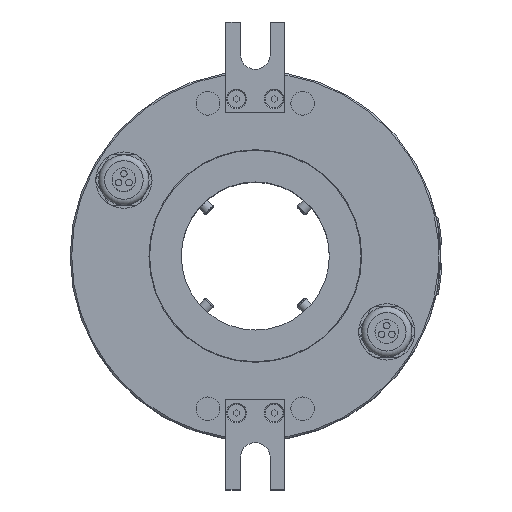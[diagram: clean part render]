
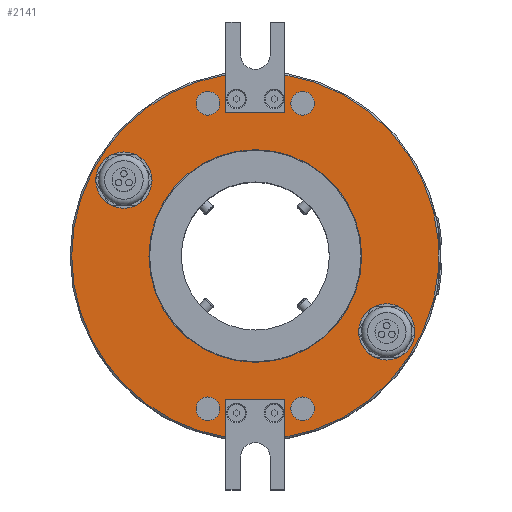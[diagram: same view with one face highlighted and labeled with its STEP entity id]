
A CAD part, top view. The second image highlights one B-rep face of the part: STEP entity #2141.
In plain terms, the highlighted planar face has unit normal (0, 0, 1).
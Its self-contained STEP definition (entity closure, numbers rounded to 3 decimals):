
#1433=PLANE('',#15796);
#2141=ADVANCED_FACE('',(#4324,#4325,#4326,#4327,#4328,#4329,#4330,#4331),
#1433,.F.);
#2825=LINE('',#27960,#3535);
#2827=LINE('',#27964,#3537);
#2829=LINE('',#27968,#3539);
#2876=LINE('',#28083,#3586);
#2879=LINE('',#28089,#3589);
#2882=LINE('',#28095,#3592);
#3535=VECTOR('',#17307,1.);
#3537=VECTOR('',#17311,1.);
#3539=VECTOR('',#17315,1.);
#3586=VECTOR('',#17424,1.);
#3589=VECTOR('',#17429,1.);
#3592=VECTOR('',#17434,1.);
#4035=CIRCLE('',#15708,9.5);
#4065=CIRCLE('',#15768,9.5);
#4067=CIRCLE('',#15777,62.);
#4068=CIRCLE('',#15778,62.);
#4071=CIRCLE('',#15782,4.);
#4073=CIRCLE('',#15785,4.);
#4075=CIRCLE('',#15788,4.);
#4077=CIRCLE('',#15791,4.);
#4078=CIRCLE('',#15793,35.9);
#4324=FACE_BOUND('',#5131,.T.);
#4325=FACE_BOUND('',#5132,.T.);
#4326=FACE_BOUND('',#5133,.T.);
#4327=FACE_BOUND('',#5134,.T.);
#4328=FACE_BOUND('',#5135,.T.);
#4329=FACE_BOUND('',#5136,.T.);
#4330=FACE_BOUND('',#5137,.T.);
#4331=FACE_BOUND('',#5138,.T.);
#5131=EDGE_LOOP('',(#8236));
#5132=EDGE_LOOP('',(#8237));
#5133=EDGE_LOOP('',(#8238));
#5134=EDGE_LOOP('',(#8239));
#5135=EDGE_LOOP('',(#8240));
#5136=EDGE_LOOP('',(#8241));
#5137=EDGE_LOOP('',(#8242));
#5138=EDGE_LOOP('',(#8243,#8244,#8245,#8246,#8247,#8248,#8249,#8250));
#8236=ORIENTED_EDGE('',*,*,#12902,.F.);
#8237=ORIENTED_EDGE('',*,*,#12968,.F.);
#8238=ORIENTED_EDGE('',*,*,#12974,.T.);
#8239=ORIENTED_EDGE('',*,*,#12976,.T.);
#8240=ORIENTED_EDGE('',*,*,#12978,.T.);
#8241=ORIENTED_EDGE('',*,*,#12980,.T.);
#8242=ORIENTED_EDGE('',*,*,#12981,.T.);
#8243=ORIENTED_EDGE('',*,*,#12761,.F.);
#8244=ORIENTED_EDGE('',*,*,#12763,.F.);
#8245=ORIENTED_EDGE('',*,*,#12765,.F.);
#8246=ORIENTED_EDGE('',*,*,#12970,.T.);
#8247=ORIENTED_EDGE('',*,*,#12824,.F.);
#8248=ORIENTED_EDGE('',*,*,#12821,.F.);
#8249=ORIENTED_EDGE('',*,*,#12818,.F.);
#8250=ORIENTED_EDGE('',*,*,#12971,.T.);
#10839=VERTEX_POINT('',#27920);
#10841=VERTEX_POINT('',#27923);
#10855=VERTEX_POINT('',#27961);
#10856=VERTEX_POINT('',#27965);
#10893=VERTEX_POINT('',#28082);
#10894=VERTEX_POINT('',#28084);
#10896=VERTEX_POINT('',#28090);
#10898=VERTEX_POINT('',#28096);
#10946=VERTEX_POINT('',#28252);
#10988=VERTEX_POINT('',#28390);
#10992=VERTEX_POINT('',#28408);
#10994=VERTEX_POINT('',#28413);
#10996=VERTEX_POINT('',#28418);
#10998=VERTEX_POINT('',#28423);
#10999=VERTEX_POINT('',#28426);
#12761=EDGE_CURVE('',#10855,#10839,#2825,.T.);
#12763=EDGE_CURVE('',#10856,#10855,#2827,.T.);
#12765=EDGE_CURVE('',#10841,#10856,#2829,.T.);
#12818=EDGE_CURVE('',#10893,#10894,#2876,.T.);
#12821=EDGE_CURVE('',#10894,#10896,#2879,.T.);
#12824=EDGE_CURVE('',#10896,#10898,#2882,.T.);
#12902=EDGE_CURVE('',#10946,#10946,#4035,.T.);
#12968=EDGE_CURVE('',#10988,#10988,#4065,.T.);
#12970=EDGE_CURVE('',#10841,#10898,#4067,.T.);
#12971=EDGE_CURVE('',#10893,#10839,#4068,.T.);
#12974=EDGE_CURVE('',#10992,#10992,#4071,.T.);
#12976=EDGE_CURVE('',#10994,#10994,#4073,.T.);
#12978=EDGE_CURVE('',#10996,#10996,#4075,.T.);
#12980=EDGE_CURVE('',#10998,#10998,#4077,.T.);
#12981=EDGE_CURVE('',#10999,#10999,#4078,.T.);
#15708=AXIS2_PLACEMENT_3D('',#28251,#17604,#17605);
#15768=AXIS2_PLACEMENT_3D('',#28389,#17760,#17761);
#15777=AXIS2_PLACEMENT_3D('',#28400,#17778,#17779);
#15778=AXIS2_PLACEMENT_3D('',#28401,#17780,#17781);
#15782=AXIS2_PLACEMENT_3D('',#28407,#17788,#17789);
#15785=AXIS2_PLACEMENT_3D('',#28412,#17794,#17795);
#15788=AXIS2_PLACEMENT_3D('',#28417,#17800,#17801);
#15791=AXIS2_PLACEMENT_3D('',#28422,#17806,#17807);
#15793=AXIS2_PLACEMENT_3D('',#28425,#17810,#17811);
#15796=AXIS2_PLACEMENT_3D('',#28429,#17816,#17817);
#17307=DIRECTION('',(0.,-1.,0.));
#17311=DIRECTION('',(-1.,0.,0.));
#17315=DIRECTION('',(0.,1.,0.));
#17424=DIRECTION('',(0.,-1.,0.));
#17429=DIRECTION('',(1.,0.,0.));
#17434=DIRECTION('',(0.,1.,0.));
#17604=DIRECTION('',(0.,0.,1.));
#17605=DIRECTION('',(-0.866,0.5,0.));
#17760=DIRECTION('',(0.,0.,1.));
#17761=DIRECTION('',(0.,1.,0.));
#17778=DIRECTION('',(0.,0.,1.));
#17779=DIRECTION('',(-1.,0.,0.));
#17780=DIRECTION('',(0.,0.,1.));
#17781=DIRECTION('',(-1.,0.,0.));
#17788=DIRECTION('',(0.,0.,-1.));
#17789=DIRECTION('',(1.,0.,0.));
#17794=DIRECTION('',(0.,0.,-1.));
#17795=DIRECTION('',(1.,0.,0.));
#17800=DIRECTION('',(0.,0.,-1.));
#17801=DIRECTION('',(1.,0.,0.));
#17806=DIRECTION('',(0.,0.,-1.));
#17807=DIRECTION('',(1.,0.,0.));
#17810=DIRECTION('',(0.,0.,-1.));
#17811=DIRECTION('',(1.,0.,0.));
#17816=DIRECTION('',(0.,0.,-1.));
#17817=DIRECTION('',(1.,0.,0.));
#27920=CARTESIAN_POINT('',(-10.,-61.188,90.));
#27923=CARTESIAN_POINT('',(10.,-61.188,90.));
#27960=CARTESIAN_POINT('',(-10.,-48.5,90.));
#27961=CARTESIAN_POINT('',(-10.,-48.5,90.));
#27964=CARTESIAN_POINT('',(10.,-48.5,90.));
#27965=CARTESIAN_POINT('',(10.,-48.5,90.));
#27968=CARTESIAN_POINT('',(10.,-79.,90.));
#28082=CARTESIAN_POINT('',(-10.,61.188,90.));
#28083=CARTESIAN_POINT('',(-10.,79.,90.));
#28084=CARTESIAN_POINT('',(-10.,48.5,90.));
#28089=CARTESIAN_POINT('',(-10.,48.5,90.));
#28090=CARTESIAN_POINT('',(10.,48.5,90.));
#28095=CARTESIAN_POINT('',(10.,48.5,90.));
#28096=CARTESIAN_POINT('',(10.,61.188,90.));
#28251=CARTESIAN_POINT('',(-44.384,25.625,90.));
#28252=CARTESIAN_POINT('',(-52.611,30.375,90.));
#28389=CARTESIAN_POINT('',(44.384,-25.625,90.));
#28390=CARTESIAN_POINT('',(44.384,-16.125,90.));
#28400=CARTESIAN_POINT('',(0.,0.,90.));
#28401=CARTESIAN_POINT('',(0.,0.,90.));
#28407=CARTESIAN_POINT('',(16.,51.575,90.));
#28408=CARTESIAN_POINT('',(20.,51.575,90.));
#28412=CARTESIAN_POINT('',(16.,-51.575,90.));
#28413=CARTESIAN_POINT('',(20.,-51.575,90.));
#28417=CARTESIAN_POINT('',(-16.,51.575,90.));
#28418=CARTESIAN_POINT('',(-12.,51.575,90.));
#28422=CARTESIAN_POINT('',(-16.,-51.575,90.));
#28423=CARTESIAN_POINT('',(-12.,-51.575,90.));
#28425=CARTESIAN_POINT('',(0.,0.,90.));
#28426=CARTESIAN_POINT('',(35.9,0.,90.));
#28429=CARTESIAN_POINT('',(0.,0.,90.));
